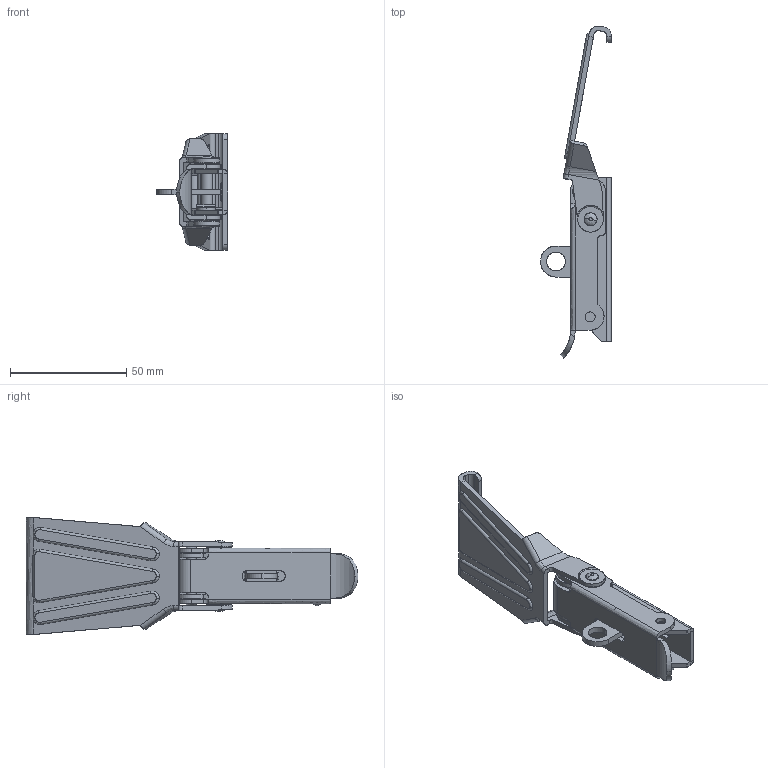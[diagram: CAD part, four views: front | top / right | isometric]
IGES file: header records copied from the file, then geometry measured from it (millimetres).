
Start section: SolidWorks IGES FILE using analytic representation for surfaces
Global section: file name: C:\Documents and Settings\brechard\Bureau\GE 92\GE 92.IGS; native system: SolidWorks 2001Plus by SolidWorks Corporation; preprocessor: Version 5.3; author: brechard; date: 050126.112345; units: millimetre
Bounding box: 30.5 x 142.47 x 50 mm (x, y, z)
Surface area: 24722.9 mm2 (no closed solid volume)
Topology: 0 solids, 0 shells, 339 faces, 4648 edges, 4618 vertices
Faces by surface type: bspline 171, revolution 168
